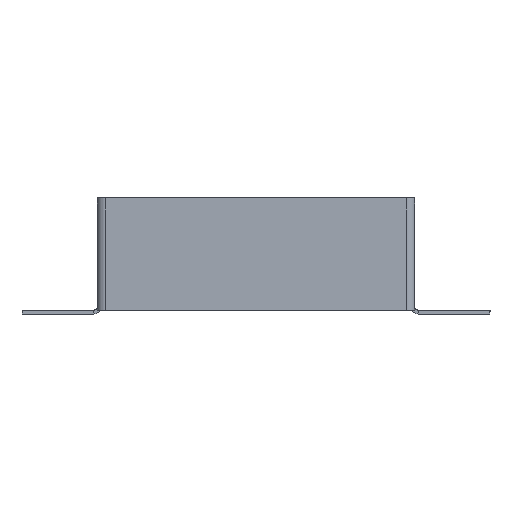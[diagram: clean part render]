
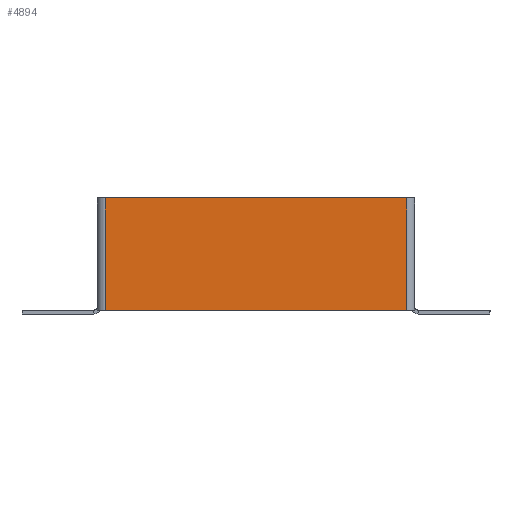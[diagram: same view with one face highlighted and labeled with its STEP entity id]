
A CAD part, front view. The second image highlights one B-rep face of the part: STEP entity #4894.
In plain terms, the highlighted planar face has unit normal (0, -1, 0).
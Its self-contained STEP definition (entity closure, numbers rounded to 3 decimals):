
#58 = CARTESIAN_POINT ( 'NONE',  ( -78., -2., -58. ) ) ;
#158 = DIRECTION ( 'NONE',  ( 1., 0., 0. ) ) ;
#607 = ORIENTED_EDGE ( 'NONE', *, *, #6159, .T. ) ;
#618 = VECTOR ( 'NONE', #158, 1000. ) ;
#772 = AXIS2_PLACEMENT_3D ( 'NONE', #1659, #3942, #2242 ) ;
#824 = VERTEX_POINT ( 'NONE', #58 ) ;
#1297 = CARTESIAN_POINT ( 'NONE',  ( 78., -2., 0. ) ) ;
#1396 = VECTOR ( 'NONE', #4835, 1000. ) ;
#1659 = CARTESIAN_POINT ( 'NONE',  ( 0., -2., 0. ) ) ;
#1794 = DIRECTION ( 'NONE',  ( -1., 0., 0. ) ) ;
#1943 = EDGE_CURVE ( 'NONE', #2986, #824, #7199, .T. ) ;
#2242 = DIRECTION ( 'NONE',  ( 0., 0., 1. ) ) ;
#2285 = LINE ( 'NONE', #6947, #618 ) ;
#2456 = EDGE_CURVE ( 'NONE', #2986, #6640, #2285, .T. ) ;
#2859 = ORIENTED_EDGE ( 'NONE', *, *, #1943, .T. ) ;
#2946 = EDGE_LOOP ( 'NONE', ( #2859, #6384, #607, #5026 ) ) ;
#2986 = VERTEX_POINT ( 'NONE', #5472 ) ;
#3525 = CARTESIAN_POINT ( 'NONE',  ( 78., -2., -58. ) ) ;
#3581 = LINE ( 'NONE', #3525, #5971 ) ;
#3670 = LINE ( 'NONE', #6708, #6571 ) ;
#3725 = VERTEX_POINT ( 'NONE', #4801 ) ;
#3942 = DIRECTION ( 'NONE',  ( 0., 1., 0. ) ) ;
#4075 = FACE_OUTER_BOUND ( 'NONE', #2946, .T. ) ;
#4801 = CARTESIAN_POINT ( 'NONE',  ( 78., -2., -58. ) ) ;
#4806 = DIRECTION ( 'NONE',  ( 0., 0., 1. ) ) ;
#4835 = DIRECTION ( 'NONE',  ( 0., 0., -1. ) ) ;
#4894 = ADVANCED_FACE ( 'NONE', ( #4075 ), #7654, .F. ) ;
#5026 = ORIENTED_EDGE ( 'NONE', *, *, #2456, .F. ) ;
#5472 = CARTESIAN_POINT ( 'NONE',  ( -78., -2., 0. ) ) ;
#5910 = CARTESIAN_POINT ( 'NONE',  ( -78., -2., 0. ) ) ;
#5971 = VECTOR ( 'NONE', #4806, 1000. ) ;
#6159 = EDGE_CURVE ( 'NONE', #3725, #6640, #3581, .T. ) ;
#6245 = EDGE_CURVE ( 'NONE', #3725, #824, #3670, .T. ) ;
#6384 = ORIENTED_EDGE ( 'NONE', *, *, #6245, .F. ) ;
#6571 = VECTOR ( 'NONE', #1794, 1000. ) ;
#6640 = VERTEX_POINT ( 'NONE', #1297 ) ;
#6708 = CARTESIAN_POINT ( 'NONE',  ( -80., -2., -58. ) ) ;
#6947 = CARTESIAN_POINT ( 'NONE',  ( -80., -2., 0. ) ) ;
#7199 = LINE ( 'NONE', #5910, #1396 ) ;
#7654 = PLANE ( 'NONE',  #772 ) ;
